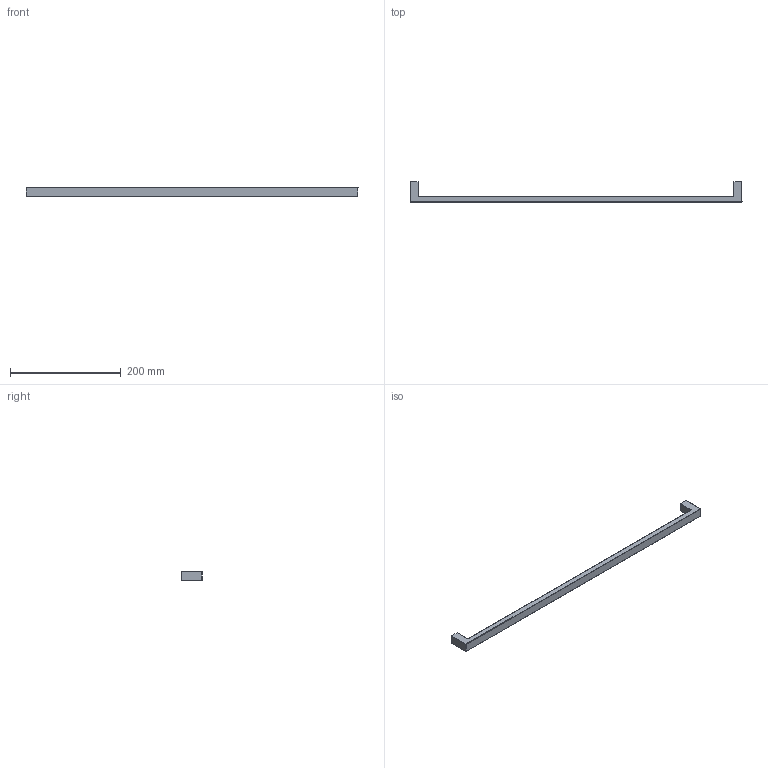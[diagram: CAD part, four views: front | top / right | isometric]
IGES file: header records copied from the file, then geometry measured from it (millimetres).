
Start section: Data from Parasolid IGES Translator 15.0.47, Copyright(c) 2006 Siemens P LM Software. All Rights Reserved.
Global section: file name: 9113255.igs; native system:  By UGS Corp.; preprocessor: XPlus GENERIC/IGES 3.0; author: Noname; organization: Noname; date: 20140122.181724; units: millimetre
Bounding box: 599 x 37.01 x 16.01 mm (x, y, z)
Surface area: 34447.5 mm2 (no closed solid volume)
Topology: 0 solids, 0 shells, 34 faces, 164 edges, 162 vertices
Faces by surface type: revolution 18, extrusion 16
